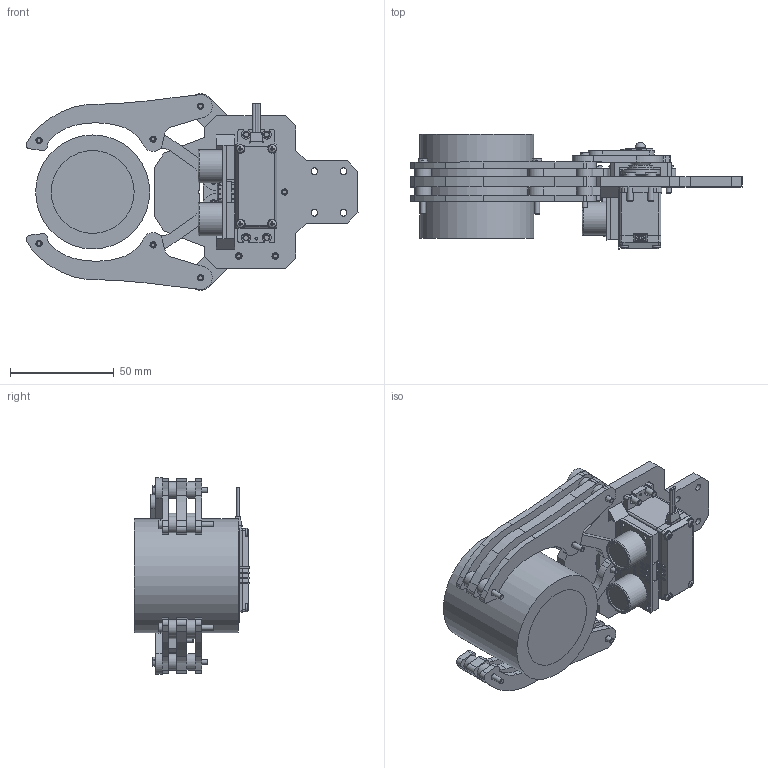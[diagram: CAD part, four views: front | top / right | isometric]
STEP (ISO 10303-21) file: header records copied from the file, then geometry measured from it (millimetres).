
FILE_DESCRIPTION(/* description */ (''),/* implementation_level */ '2;1');
FILE_NAME(/* name */ 'C:\Users\x300\Desktop\pinza_3\Robotic Gripper With Sensor.stp',/* time_stamp */ '2023-02-28T10:16:27+01:00',/* author */ ('x300'),/* organization */ (''),/* preprocessor_version */ 'ST-DEVELOPER v19',/* originating_system */ 'Autodesk Inventor 2023',/* authorisation */ '');
FILE_SCHEMA (('AUTOMOTIVE_DESIGN { 1 0 10303 214 3 1 1 }'));
Length unit declared in the file: millimetre
Products named in the file (37): Robotic Gripper With Sensor; TOWER PRO MG-995, ANALOG SERVO.iam; TOWER PRO MG-995, ANALOG SERVO, BODY, BOTTOM.ipt; TOWER PRO MG-995, ANALOG SERVO, BODY, MIDDLE.ipt; TOWER PRO MG-995, ANALOG SERVO, BODY, TOP.ipt; TOWER PRO MG-995, ANALOG SERVO, CONNECTOR.ipt; TOWER PRO MG-995, ANALOG SERVO, SHAFT.ipt; pan cross head_am_B18.6.7M - M2 x 0.4 x 10 Type I Cross Recessed PHMS
 --10N.ipt; ser Horn; gear2; gear2_1; claw2b; claw2c; Dock bot2; claw2; arm1b; 14Screw92005A124.ipt; blocco1; spessore; AS 1427 - M2,5 x 16; AS 1427 - M2,5 x 25; AS 1427 - M2,5 x 12; AS 1427 - M3 x 12; AS 1427 - M3 x 8; UN 5721 - M3; User Library-HC-SR04.iam; User Library-HC-SR04_HC-SR04 Ping Sensor.iam; User Library-HC-SR04_PCB.ipt; User Library-HC-SR04_Transducer.ipt; User Library-HC-SR04_3 Pin Header 90 Degree.ipt; User Library-HC-SR04_14 Pin SMT.ipt; User Library-HC-SR04_HC-SR04 Crystal.SLDASM.ipt; User Library-HC-SR04_ssot3.ipt; User Library-HC-SR04_MLC0603.ipt; User Library-HC-SR04_603 cap on pad.ipt; pezzo grande; pezzo piccolo
Assembly tree (102 placements, depth 4):
  Robotic Gripper With Sensor
    TOWER PRO MG-995, ANALOG SERVO.iam
      TOWER PRO MG-995, ANALOG SERVO, BODY, BOTTOM.ipt
      TOWER PRO MG-995, ANALOG SERVO, BODY, MIDDLE.ipt
      TOWER PRO MG-995, ANALOG SERVO, BODY, TOP.ipt
      TOWER PRO MG-995, ANALOG SERVO, CONNECTOR.ipt
      TOWER PRO MG-995, ANALOG SERVO, SHAFT.ipt
      pan cross head_am_B18.6.7M - M2 x 0.4 x 10 Type I Cross Recessed PHMS
 --10N.ipt  x4
    ser Horn
    gear2
    arm1b  x4
    claw2  x4
    gear2_1
    claw2b
    claw2c
    Dock bot2
    14Screw92005A124.ipt
    blocco1
    spessore  x8
    AS 1427 - M2,5 x 16  x2
    AS 1427 - M2,5 x 25  x6
    AS 1427 - M2,5 x 12  x4
    AS 1427 - M3 x 12  x4
    AS 1427 - M3 x 8
    UN 5721 - M3
    User Library-HC-SR04.iam
      User Library-HC-SR04_HC-SR04 Ping Sensor.iam
        User Library-HC-SR04_PCB.ipt
        User Library-HC-SR04_Transducer.ipt  x2
        User Library-HC-SR04_3 Pin Header 90 Degree.ipt
        User Library-HC-SR04_14 Pin SMT.ipt  x3
        User Library-HC-SR04_HC-SR04 Crystal.SLDASM.ipt
        User Library-HC-SR04_ssot3.ipt  x2
        User Library-HC-SR04_MLC0603.ipt  x20
        User Library-HC-SR04_603 cap on pad.ipt  x16
    pezzo grande
    pezzo piccolo
Bounding box: 160.09 x 55.53 x 94.75 mm (x, y, z)
Volume: 225108.2 mm3; surface area: 94592.1 mm2
Topology: 162 solids, 162 shells, 4873 faces, 12324 edges, 7937 vertices
Faces by surface type: plane 2966, cylinder 1073, bspline 573, cone 135, torus 120, sphere 6
Full cylindrical faces by diameter (mm): 0.123 x1, 0.5 x1, 1.2 x3, 1.4 x2, 1.6 x1, 1.65 x7, 1.948 x12, 2 x7, 2.1 x2, 2.2 x4, 2.35 x17, 2.387 x4, 2.459 x1, 2.5 x12, 2.693 x1, 3 x67, 3.2 x10, 4 x4, 4.05 x1, 5 x1, 5.3 x1, 6 x4, 6.15 x1, 6.5 x1, 8 x8, 8.1 x1, 10.5 x2, 11.2 x1, 12.8 x1, 15.88 x2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
Entity records: 90276 total; most frequent: CARTESIAN_POINT 39833, ORIENTED_EDGE 10968, DIRECTION 8815, EDGE_CURVE 5484, VERTEX_POINT 3584, LINE 3227, VECTOR 3227, AXIS2_PLACEMENT_3D 2794
